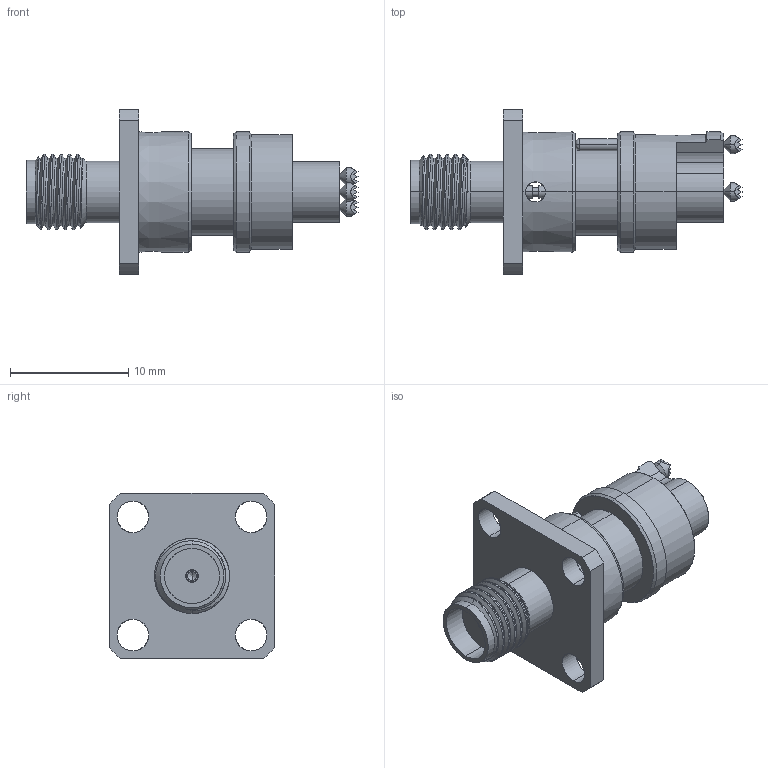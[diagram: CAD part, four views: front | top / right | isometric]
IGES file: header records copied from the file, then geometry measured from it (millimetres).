
Start section: SolidWorks IGES file using analytic representation for surfaces
Global section: file name: Z:\probe solid model mockups\Solidworks models\IGES Files\K-50H-S-SPL-01H-116 IGES files\K-50H-S-SPL-01H-116 Full.IGS; native system: SolidWorks 2006 by SolidWorks Corporation; preprocessor: SolidWorks 2006 by SolidWorks Corporation; author: tsakatani; date: 080108.090943; units: inch
Bounding box: 28.09 x 14 x 14 mm (x, y, z)
Surface area: 1421.4 mm2 (no closed solid volume)
Topology: 0 solids, 0 shells, 233 faces, 2705 edges, 2703 vertices
Faces by surface type: bspline 120, revolution 113
